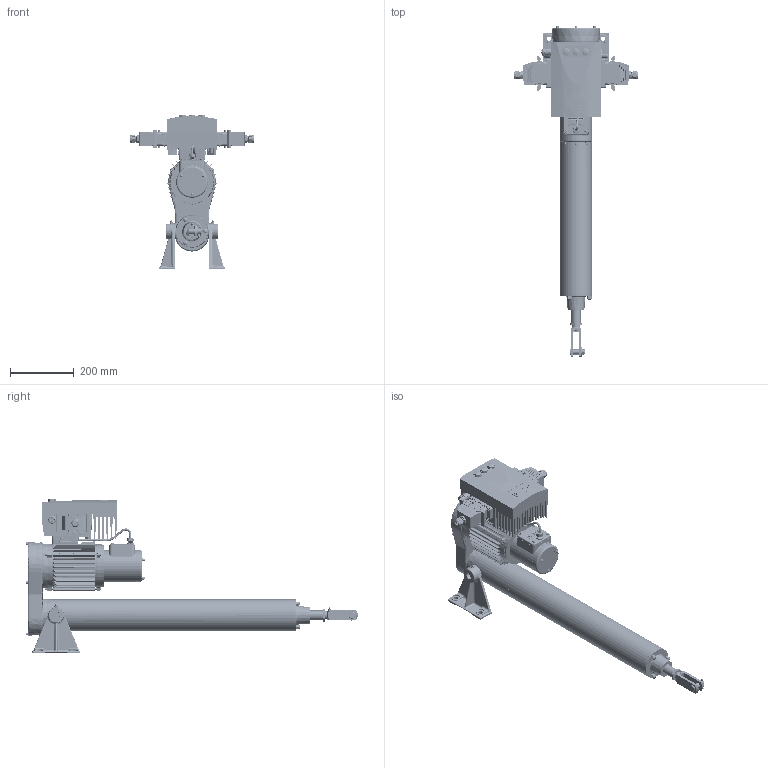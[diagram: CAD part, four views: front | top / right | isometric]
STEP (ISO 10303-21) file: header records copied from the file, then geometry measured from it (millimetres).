
FILE_DESCRIPTION( ( '153-599-4' ), '1' );
FILE_NAME( 'C:/daten/bearbeitung katalogbilder/RBs rendern/austausch pomplun/mit identnr/T1C4-RM-0600-160-254-5.stp', 'Unknown', ( 'Christoph Hahmann' ), ( 'RACO-ELEKTRO-MASCHINEN GmbH' ), 'PSStep 17.0.49', 'Solid Edge ST 7', ' ' );
FILE_SCHEMA( ( 'AUTOMOTIVE_DESIGN { 1 0 10303 214 1 1 1 1 }' ) );
Length unit declared in the file: millimetre
Products named in the file (14): Assem1; 03.01-04 kpl; 02.14-04-0600; 02.01-04 kpl; 01.15-04-0600; 01.01-04 kpl Gabelkopf; 12.01-04; 12.02-04; Kabel zu Motor 80K6; BG1-155-449-2-kpl; 03.65-04-105-052-4-2 Füße; Gehäuse A2- CAN; 80K6-142-356-8 mit Adapter; 157-713-1-3
Assembly tree (13 placements, depth 2):
  Assem1
    03.01-04 kpl
    02.14-04-0600
    02.01-04 kpl
    01.15-04-0600
    01.01-04 kpl Gabelkopf
    12.01-04
    12.02-04
    Kabel zu Motor 80K6
    BG1-155-449-2-kpl
    03.65-04-105-052-4-2 Füße
    Gehäuse A2- CAN
    80K6-142-356-8 mit Adapter
    157-713-1-3
Bounding box: 392.49 x 1043.58 x 486.75 mm (x, y, z)
Surface area: 1492185.7 mm2 (no closed solid volume)
Topology: 0 solids, 8906 shells, 8922 faces, 44604 edges, 43805 vertices
Faces by surface type: plane 4546, cylinder 2394, cone 693, bspline 680, torus 359, sphere 230, extrusion 19, revolution 1
Full cylindrical faces by diameter (mm): 1.6 x2, 2 x1, 2.6 x1, 3 x31, 3.141 x8, 3.242 x16, 3.5 x1, 4 x27, 4.02 x1, 4.134 x20, 4.4 x8, 4.5 x12, 4.917 x2, 5 x48, 5.1 x1, 5.3 x5, 5.4 x1, 5.5 x13, 5.7 x7, 5.8 x6, 6.647 x7, 6.917 x2, 7 x9, 7.5 x3, 7.6 x8, 8 x3, 8.5 x13, 9.15 x7, 9.2 x1, 9.3 x3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
Entity records: 662756 total; most frequent: CARTESIAN_POINT 263418, DIRECTION 69938, VERTEX_POINT 43431, ORIENTED_EDGE 43376, EDGE_CURVE 43376, AXIS2_PLACEMENT_3D 23632, VECTOR 22673, LINE 22654
